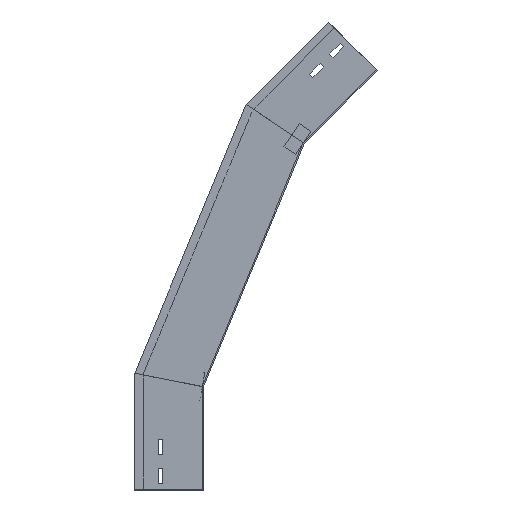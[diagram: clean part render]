
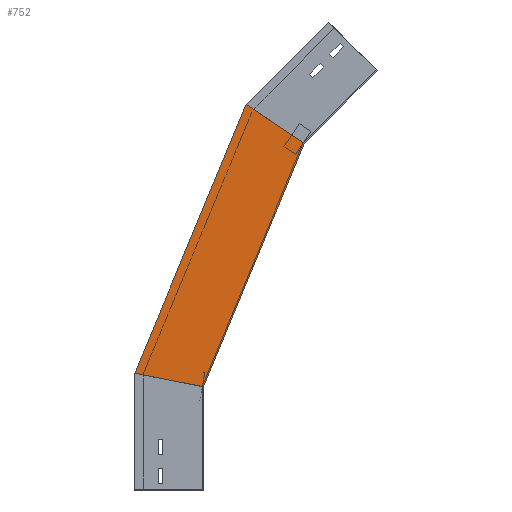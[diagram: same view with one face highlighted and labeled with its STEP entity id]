
A CAD part, left-side view. The second image highlights one B-rep face of the part: STEP entity #752.
In plain terms, the highlighted planar face has unit normal (-1, 0, 0) as drawn and (1, 0, 0) by its records, which use the part's own axes.
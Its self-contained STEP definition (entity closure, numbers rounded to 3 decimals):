
#33 = DIRECTION ( 'NONE',  ( 0., -0.383, 0.924 ) ) ;
#43 = DIRECTION ( 'NONE',  ( 1., 0., 0. ) ) ;
#90 = VECTOR ( 'NONE', #33, 1000. ) ;
#154 = LINE ( 'NONE', #602, #321 ) ;
#160 = CARTESIAN_POINT ( 'NONE',  ( 0., 8.412, 129.693 ) ) ;
#177 = CARTESIAN_POINT ( 'NONE',  ( 0., 8.412, 129.693 ) ) ;
#184 = DIRECTION ( 'NONE',  ( 0., -0.383, 0.924 ) ) ;
#321 = VECTOR ( 'NONE', #1424, 1000. ) ;
#357 = PLANE ( 'NONE',  #1184 ) ;
#371 = LINE ( 'NONE', #1415, #90 ) ;
#382 = EDGE_CURVE ( 'NONE', #1430, #1189, #748, .T. ) ;
#396 = CARTESIAN_POINT ( 'NONE',  ( 0., -146.568, 503.846 ) ) ;
#465 = CARTESIAN_POINT ( 'NONE',  ( 0., 0., 150. ) ) ;
#575 = VERTEX_POINT ( 'NONE', #465 ) ;
#602 = CARTESIAN_POINT ( 'NONE',  ( 0., -28.701, 144.291 ) ) ;
#617 = ORIENTED_EDGE ( 'NONE', *, *, #778, .F. ) ;
#626 = CARTESIAN_POINT ( 'NONE',  ( 0., 100., 169.891 ) ) ;
#652 = DIRECTION ( 'NONE',  ( 0., -0.831, -0.556 ) ) ;
#733 = EDGE_LOOP ( 'NONE', ( #1207, #755, #1333, #617 ) ) ;
#748 = LINE ( 'NONE', #1117, #1266 ) ;
#752 = ADVANCED_FACE ( 'NONE', ( #1416 ), #357, .T. ) ;
#755 = ORIENTED_EDGE ( 'NONE', *, *, #382, .T. ) ;
#778 = EDGE_CURVE ( 'NONE', #855, #575, #154, .T. ) ;
#779 = CARTESIAN_POINT ( 'NONE',  ( 0., -61.792, 560.491 ) ) ;
#828 = EDGE_CURVE ( 'NONE', #575, #1189, #986, .T. ) ;
#841 = DIRECTION ( 'NONE',  ( 0., 0., -1. ) ) ;
#855 = VERTEX_POINT ( 'NONE', #626 ) ;
#986 = LINE ( 'NONE', #177, #1086 ) ;
#1059 = EDGE_CURVE ( 'NONE', #855, #1430, #371, .T. ) ;
#1086 = VECTOR ( 'NONE', #184, 1000. ) ;
#1117 = CARTESIAN_POINT ( 'NONE',  ( 0., -212.26, 459.952 ) ) ;
#1184 = AXIS2_PLACEMENT_3D ( 'NONE', #160, #43, #841 ) ;
#1189 = VERTEX_POINT ( 'NONE', #396 ) ;
#1207 = ORIENTED_EDGE ( 'NONE', *, *, #1059, .T. ) ;
#1266 = VECTOR ( 'NONE', #652, 1000. ) ;
#1333 = ORIENTED_EDGE ( 'NONE', *, *, #828, .F. ) ;
#1415 = CARTESIAN_POINT ( 'NONE',  ( 0., 100.799, 167.961 ) ) ;
#1416 = FACE_OUTER_BOUND ( 'NONE', #733, .T. ) ;
#1424 = DIRECTION ( 'NONE',  ( 0., -0.981, -0.195 ) ) ;
#1430 = VERTEX_POINT ( 'NONE', #779 ) ;
